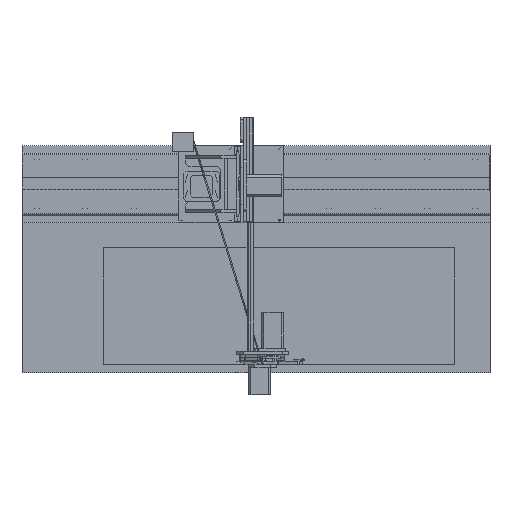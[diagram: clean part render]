
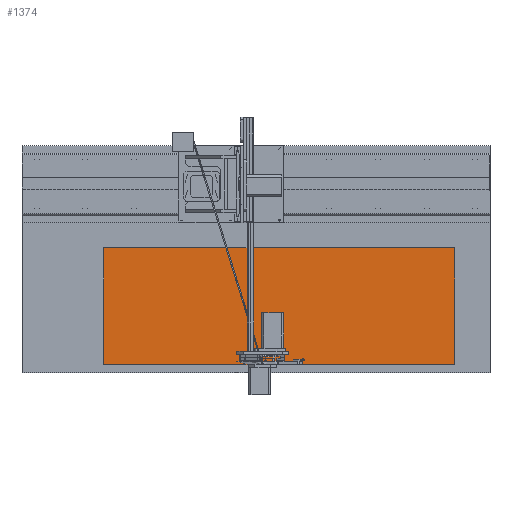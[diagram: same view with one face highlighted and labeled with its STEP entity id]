
A CAD part, top view. The second image highlights one B-rep face of the part: STEP entity #1374.
In plain terms, the highlighted planar face has unit normal (0, 0, 1).
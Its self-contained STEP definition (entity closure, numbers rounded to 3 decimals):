
#1374=ADVANCED_FACE('',(#3426),#33492,.T.);
#3426=FACE_OUTER_BOUND('',#5504,.T.);
#5504=EDGE_LOOP('',(#10050,#10051,#10052,#10053));
#10050=ORIENTED_EDGE('',*,*,#19865,.F.);
#10051=ORIENTED_EDGE('',*,*,#19862,.F.);
#10052=ORIENTED_EDGE('',*,*,#19859,.F.);
#10053=ORIENTED_EDGE('',*,*,#19855,.F.);
#19855=EDGE_CURVE('',#30517,#30518,#25063,.T.);
#19859=EDGE_CURVE('',#30518,#30521,#25067,.T.);
#19862=EDGE_CURVE('',#30521,#30523,#25070,.T.);
#19865=EDGE_CURVE('',#30523,#30517,#25073,.T.);
#25063=B_SPLINE_CURVE_WITH_KNOTS('',1,(#44760,#44761),.UNSPECIFIED.,.F.,
 .F.,(2,2),(0.,300.),.UNSPECIFIED.);
#25067=B_SPLINE_CURVE_WITH_KNOTS('',1,(#44768,#44769),.UNSPECIFIED.,.F.,
 .F.,(2,2),(300.,1200.),.UNSPECIFIED.);
#25070=B_SPLINE_CURVE_WITH_KNOTS('',1,(#44774,#44775),.UNSPECIFIED.,.F.,
 .F.,(2,2),(1200.,1500.),.UNSPECIFIED.);
#25073=B_SPLINE_CURVE_WITH_KNOTS('',1,(#44780,#44781),.UNSPECIFIED.,.F.,
 .F.,(2,2),(1500.,2400.),.UNSPECIFIED.);
#30517=VERTEX_POINT('',#44752);
#30518=VERTEX_POINT('',#44753);
#30521=VERTEX_POINT('',#44756);
#30523=VERTEX_POINT('',#44758);
#33492=PLANE('',#35322);
#35322=AXIS2_PLACEMENT_3D('',#44750,#35921,$);
#35921=DIRECTION('',(0.,0.,1.));
#44750=CARTESIAN_POINT('',(209.211,-462.6,0.));
#44752=CARTESIAN_POINT('',(209.211,-462.6,0.));
#44753=CARTESIAN_POINT('',(209.211,-162.6,0.));
#44756=CARTESIAN_POINT('',(1109.211,-162.6,0.));
#44758=CARTESIAN_POINT('',(1109.211,-462.6,0.));
#44760=CARTESIAN_POINT('',(209.211,-462.6,0.));
#44761=CARTESIAN_POINT('',(209.211,-162.6,0.));
#44768=CARTESIAN_POINT('',(209.211,-162.6,0.));
#44769=CARTESIAN_POINT('',(1109.211,-162.6,0.));
#44774=CARTESIAN_POINT('',(1109.211,-162.6,0.));
#44775=CARTESIAN_POINT('',(1109.211,-462.6,0.));
#44780=CARTESIAN_POINT('',(1109.211,-462.6,0.));
#44781=CARTESIAN_POINT('',(209.211,-462.6,0.));
